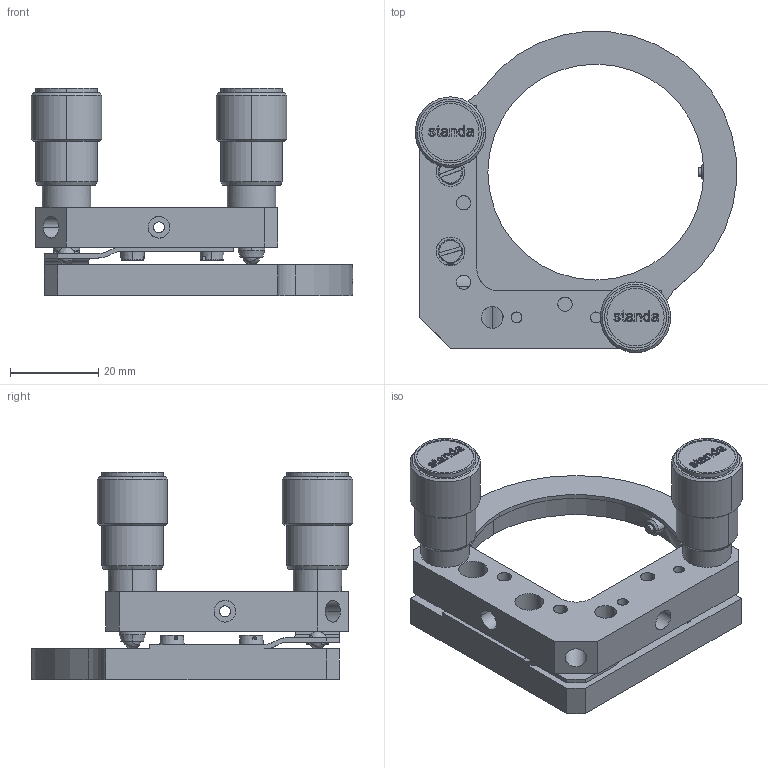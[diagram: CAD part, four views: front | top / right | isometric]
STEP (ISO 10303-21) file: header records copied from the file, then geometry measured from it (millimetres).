
FILE_DESCRIPTION (( 'STEP AP203' ), '1' );
FILE_NAME ('5BM57-2.STEP', '2008-06-26T11:48:54', ( 'STANDA' ), ( '' ), 'SwSTEP 2.0', 'SolidWorks 2003240', '' );
FILE_SCHEMA (( 'CONFIG_CONTROL_DESIGN' ));
Length unit declared in the file: millimetre
Products named in the file (1): 5BM57-2
Bounding box: 72.98 x 72.91 x 47 mm (x, y, z)
Volume: 32255.9 mm3; surface area: 16650.3 mm2
Topology: 1 solids, 1 shells, 645 faces, 1755 edges, 1172 vertices
Faces by surface type: bspline 274, plane 253, cylinder 89, cone 29
Entity records: 37022 total; most frequent: CARTESIAN_POINT 22534, ORIENTED_EDGE 3494, DIRECTION 2043, EDGE_CURVE 1747, VERTEX_POINT 1172, VECTOR 881, LINE 881, EDGE_LOOP 735
